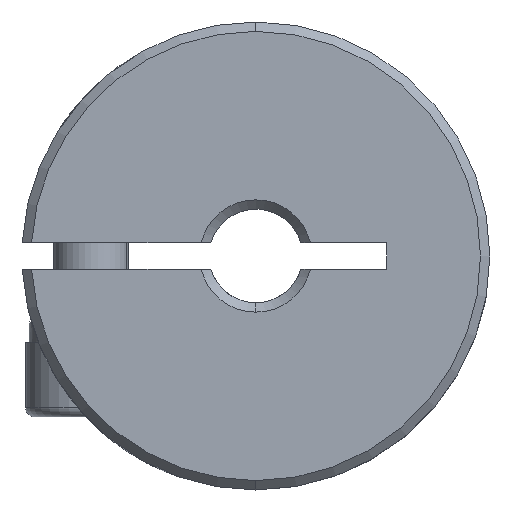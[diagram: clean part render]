
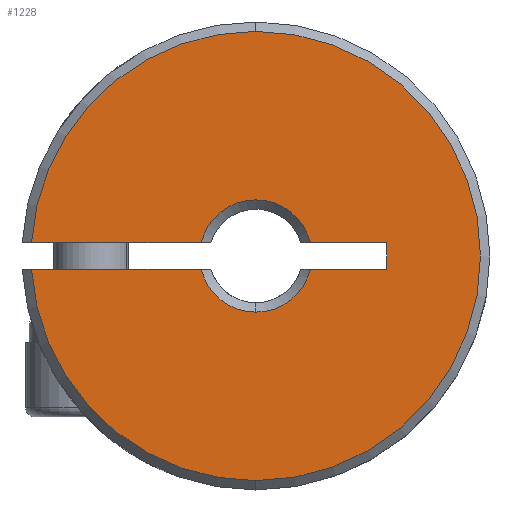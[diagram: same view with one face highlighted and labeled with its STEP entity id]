
A CAD part, front view. The second image highlights one B-rep face of the part: STEP entity #1228.
In plain terms, the highlighted planar face has unit normal (0, -1, 0).
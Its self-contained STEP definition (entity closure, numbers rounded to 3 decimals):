
#24 = CARTESIAN_POINT ( 'NONE',  ( 0., 0.25, -12. ) ) ;
#60 = CARTESIAN_POINT ( 'NONE',  ( 0., 0.25, 0. ) ) ;
#109 = VECTOR ( 'NONE', #3870, 1000. ) ;
#216 = ORIENTED_EDGE ( 'NONE', *, *, #5092, .F. ) ;
#226 = EDGE_CURVE ( 'NONE', #3816, #4449, #1874, .T. ) ;
#281 = DIRECTION ( 'NONE',  ( 0., 1., 0. ) ) ;
#376 = EDGE_LOOP ( 'NONE', ( #4511, #3914, #6086, #216, #417, #6093, #2236, #5659, #4592, #3047, #5533 ) ) ;
#417 = ORIENTED_EDGE ( 'NONE', *, *, #226, .T. ) ;
#474 = LINE ( 'NONE', #602, #4462 ) ;
#483 = CIRCLE ( 'NONE', #3801, 3. ) ;
#484 = VERTEX_POINT ( 'NONE', #3107 ) ;
#501 = DIRECTION ( 'NONE',  ( 0., 0., 1. ) ) ;
#602 = CARTESIAN_POINT ( 'NONE',  ( -12.75, 0.25, 0.7 ) ) ;
#604 = DIRECTION ( 'NONE',  ( 0., 0., 1. ) ) ;
#618 = AXIS2_PLACEMENT_3D ( 'NONE', #6262, #2400, #4357 ) ;
#658 = VERTEX_POINT ( 'NONE', #3278 ) ;
#720 = EDGE_CURVE ( 'NONE', #5942, #658, #483, .T. ) ;
#727 = LINE ( 'NONE', #3655, #3103 ) ;
#737 = CIRCLE ( 'NONE', #3496, 12. ) ;
#811 = EDGE_CURVE ( 'NONE', #4372, #4707, #474, .T. ) ;
#914 = VERTEX_POINT ( 'NONE', #4123 ) ;
#991 = DIRECTION ( 'NONE',  ( 0., 0., 1. ) ) ;
#1228 = ADVANCED_FACE ( 'NONE', ( #5148 ), #2853, .F. ) ;
#1256 = DIRECTION ( 'NONE',  ( 0., 0., 1. ) ) ;
#1439 = DIRECTION ( 'NONE',  ( 0., -1., 0. ) ) ;
#1874 = CIRCLE ( 'NONE', #4162, 12. ) ;
#2005 = AXIS2_PLACEMENT_3D ( 'NONE', #60, #5881, #604 ) ;
#2236 = ORIENTED_EDGE ( 'NONE', *, *, #5759, .T. ) ;
#2331 = CIRCLE ( 'NONE', #2903, 3. ) ;
#2400 = DIRECTION ( 'NONE',  ( 0., 1., 0. ) ) ;
#2481 = DIRECTION ( 'NONE',  ( 1., 0., 0. ) ) ;
#2496 = VERTEX_POINT ( 'NONE', #2543 ) ;
#2543 = CARTESIAN_POINT ( 'NONE',  ( 7., 0.25, -0.7 ) ) ;
#2550 = DIRECTION ( 'NONE',  ( -1., 0., 0. ) ) ;
#2704 = VECTOR ( 'NONE', #5584, 1000. ) ;
#2793 = DIRECTION ( 'NONE',  ( 0., 0., 1. ) ) ;
#2853 = PLANE ( 'NONE',  #618 ) ;
#2873 = LINE ( 'NONE', #5328, #109 ) ;
#2886 = DIRECTION ( 'NONE',  ( 0., -1., 0. ) ) ;
#2903 = AXIS2_PLACEMENT_3D ( 'NONE', #5644, #5195, #4641 ) ;
#3047 = ORIENTED_EDGE ( 'NONE', *, *, #811, .F. ) ;
#3082 = CARTESIAN_POINT ( 'NONE',  ( 2.917, 0.25, -0.7 ) ) ;
#3103 = VECTOR ( 'NONE', #4119, 1000. ) ;
#3107 = CARTESIAN_POINT ( 'NONE',  ( 0., 0.25, 12. ) ) ;
#3158 = CARTESIAN_POINT ( 'NONE',  ( -11.98, 0.25, 0.7 ) ) ;
#3250 = CIRCLE ( 'NONE', #2005, 3. ) ;
#3278 = CARTESIAN_POINT ( 'NONE',  ( 0., 0.25, -3. ) ) ;
#3437 = AXIS2_PLACEMENT_3D ( 'NONE', #5416, #1439, #991 ) ;
#3445 = CARTESIAN_POINT ( 'NONE',  ( -12.75, 0.25, -0.7 ) ) ;
#3496 = AXIS2_PLACEMENT_3D ( 'NONE', #3809, #2886, #501 ) ;
#3648 = CARTESIAN_POINT ( 'NONE',  ( 2.917, 0.25, 0.7 ) ) ;
#3655 = CARTESIAN_POINT ( 'NONE',  ( 7., 0.25, 0.7 ) ) ;
#3754 = CARTESIAN_POINT ( 'NONE',  ( -11.98, 0.25, -0.7 ) ) ;
#3801 = AXIS2_PLACEMENT_3D ( 'NONE', #5150, #281, #1256 ) ;
#3809 = CARTESIAN_POINT ( 'NONE',  ( 0., 0.25, 0. ) ) ;
#3816 = VERTEX_POINT ( 'NONE', #3754 ) ;
#3870 = DIRECTION ( 'NONE',  ( -1., 0., 0. ) ) ;
#3895 = VERTEX_POINT ( 'NONE', #5794 ) ;
#3914 = ORIENTED_EDGE ( 'NONE', *, *, #720, .T. ) ;
#4010 = LINE ( 'NONE', #4220, #2704 ) ;
#4036 = EDGE_CURVE ( 'NONE', #4449, #484, #5012, .T. ) ;
#4074 = EDGE_CURVE ( 'NONE', #5942, #2496, #5774, .T. ) ;
#4119 = DIRECTION ( 'NONE',  ( 0., 0., 1. ) ) ;
#4123 = CARTESIAN_POINT ( 'NONE',  ( -2.917, 0.25, 0.7 ) ) ;
#4162 = AXIS2_PLACEMENT_3D ( 'NONE', #5713, #4767, #2793 ) ;
#4220 = CARTESIAN_POINT ( 'NONE',  ( -12.75, 0.25, -0.7 ) ) ;
#4357 = DIRECTION ( 'NONE',  ( 0., 0., 1. ) ) ;
#4372 = VERTEX_POINT ( 'NONE', #5248 ) ;
#4449 = VERTEX_POINT ( 'NONE', #24 ) ;
#4459 = EDGE_CURVE ( 'NONE', #914, #5557, #2873, .T. ) ;
#4462 = VECTOR ( 'NONE', #2550, 1000. ) ;
#4511 = ORIENTED_EDGE ( 'NONE', *, *, #4074, .F. ) ;
#4531 = EDGE_CURVE ( 'NONE', #658, #3895, #3250, .T. ) ;
#4592 = ORIENTED_EDGE ( 'NONE', *, *, #4783, .T. ) ;
#4641 = DIRECTION ( 'NONE',  ( 0., 0., 1. ) ) ;
#4707 = VERTEX_POINT ( 'NONE', #3648 ) ;
#4767 = DIRECTION ( 'NONE',  ( 0., -1., 0. ) ) ;
#4783 = EDGE_CURVE ( 'NONE', #914, #4707, #2331, .T. ) ;
#5012 = CIRCLE ( 'NONE', #3437, 12. ) ;
#5092 = EDGE_CURVE ( 'NONE', #3816, #3895, #4010, .T. ) ;
#5148 = FACE_OUTER_BOUND ( 'NONE', #376, .T. ) ;
#5150 = CARTESIAN_POINT ( 'NONE',  ( 0., 0.25, 0. ) ) ;
#5195 = DIRECTION ( 'NONE',  ( 0., 1., 0. ) ) ;
#5248 = CARTESIAN_POINT ( 'NONE',  ( 7., 0.25, 0.7 ) ) ;
#5328 = CARTESIAN_POINT ( 'NONE',  ( -12.75, 0.25, 0.7 ) ) ;
#5416 = CARTESIAN_POINT ( 'NONE',  ( 0., 0.25, 0. ) ) ;
#5533 = ORIENTED_EDGE ( 'NONE', *, *, #6045, .F. ) ;
#5557 = VERTEX_POINT ( 'NONE', #3158 ) ;
#5584 = DIRECTION ( 'NONE',  ( 1., 0., 0. ) ) ;
#5644 = CARTESIAN_POINT ( 'NONE',  ( 0., 0.25, 0. ) ) ;
#5659 = ORIENTED_EDGE ( 'NONE', *, *, #4459, .F. ) ;
#5713 = CARTESIAN_POINT ( 'NONE',  ( 0., 0.25, 0. ) ) ;
#5759 = EDGE_CURVE ( 'NONE', #484, #5557, #737, .T. ) ;
#5774 = LINE ( 'NONE', #3445, #6145 ) ;
#5794 = CARTESIAN_POINT ( 'NONE',  ( -2.917, 0.25, -0.7 ) ) ;
#5881 = DIRECTION ( 'NONE',  ( 0., 1., 0. ) ) ;
#5942 = VERTEX_POINT ( 'NONE', #3082 ) ;
#6045 = EDGE_CURVE ( 'NONE', #2496, #4372, #727, .T. ) ;
#6086 = ORIENTED_EDGE ( 'NONE', *, *, #4531, .T. ) ;
#6093 = ORIENTED_EDGE ( 'NONE', *, *, #4036, .T. ) ;
#6145 = VECTOR ( 'NONE', #2481, 1000. ) ;
#6262 = CARTESIAN_POINT ( 'NONE',  ( -500., 0.25, -13.609 ) ) ;
